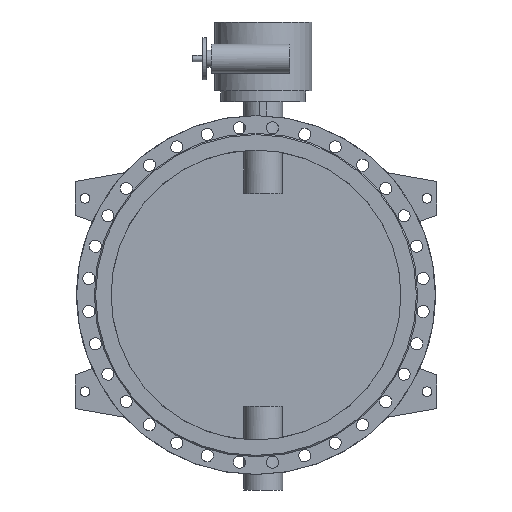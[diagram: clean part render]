
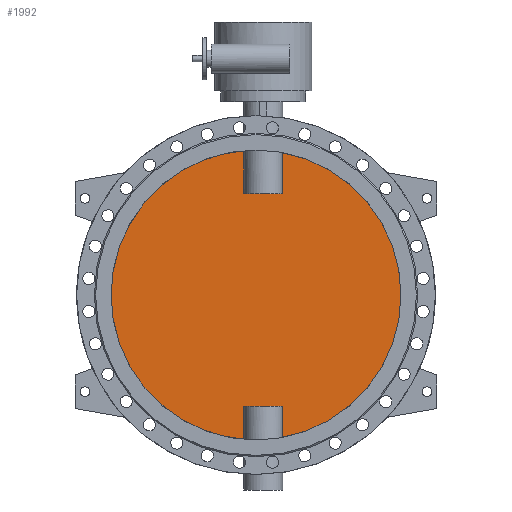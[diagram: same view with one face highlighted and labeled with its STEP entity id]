
A CAD part, front view. The second image highlights one B-rep face of the part: STEP entity #1992.
In plain terms, the highlighted planar face has unit normal (0, -1, 0).
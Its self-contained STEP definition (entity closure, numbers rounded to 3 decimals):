
#1992=ADVANCED_FACE('',(#4196),#4198,.F.);
#4196=FACE_BOUND('',#4197,.T.);
#4197=EDGE_LOOP('',(#5218,#5219,#5220,#5221,#5222,#5223,#5224,#5225));
#4198=PLANE('',#4199);
#4199=AXIS2_PLACEMENT_3D('',#4200,#4201,#4202);
#4200=CARTESIAN_POINT('',(0.,-5.,0.));
#4201=DIRECTION('',(0.,1.,0.));
#4202=DIRECTION('',(1.,0.,0.));
#5218=ORIENTED_EDGE('',*,*,#5729,.T.);
#5219=ORIENTED_EDGE('',*,*,#5735,.T.);
#5220=ORIENTED_EDGE('',*,*,#5736,.T.);
#5221=ORIENTED_EDGE('',*,*,#5737,.T.);
#5222=ORIENTED_EDGE('',*,*,#5731,.T.);
#5223=ORIENTED_EDGE('',*,*,#5738,.T.);
#5224=ORIENTED_EDGE('',*,*,#5739,.T.);
#5225=ORIENTED_EDGE('',*,*,#5740,.T.);
#5729=EDGE_CURVE('',#6585,#6586,#6587,.F.);
#5731=EDGE_CURVE('',#6590,#6588,#6591,.F.);
#5735=EDGE_CURVE('',#6586,#6597,#6598,.T.);
#5736=EDGE_CURVE('',#6597,#6599,#6600,.F.);
#5737=EDGE_CURVE('',#6599,#6590,#6601,.F.);
#5738=EDGE_CURVE('',#6588,#6602,#6603,.F.);
#5739=EDGE_CURVE('',#6602,#6604,#6605,.F.);
#5740=EDGE_CURVE('',#6604,#6585,#6606,.T.);
#6585=VERTEX_POINT('',#9600);
#6586=VERTEX_POINT('',#9601);
#6587=CIRCLE('',#9602,600.);
#6588=VERTEX_POINT('',#9606);
#6590=VERTEX_POINT('',#9700);
#6591=CIRCLE('',#9701,600.);
#6597=VERTEX_POINT('',#9809);
#6598=LINE('',#9810,#9811);
#6599=VERTEX_POINT('',#9813);
#6600=LINE('',#9814,#9815);
#6601=LINE('',#9817,#9818);
#6602=VERTEX_POINT('',#9820);
#6603=LINE('',#9821,#9822);
#6604=VERTEX_POINT('',#9824);
#6605=LINE('',#9825,#9826);
#6606=LINE('',#9828,#9829);
#9600=CARTESIAN_POINT('',(109.844,-5.,-589.86));
#9601=CARTESIAN_POINT('',(109.844,-5.,589.86));
#9602=AXIS2_PLACEMENT_3D('',#9603,#9604,#9605);
#9603=CARTESIAN_POINT('',(0.,-5.,0.));
#9604=DIRECTION('',(0.,1.,0.));
#9605=DIRECTION('',(0.183,0.,0.983));
#9606=CARTESIAN_POINT('',(-49.844,-5.,-597.926));
#9700=CARTESIAN_POINT('',(-49.844,-5.,597.926));
#9701=AXIS2_PLACEMENT_3D('',#9702,#9703,#9704);
#9702=CARTESIAN_POINT('',(0.,-5.,0.));
#9703=DIRECTION('',(0.,1.,0.));
#9704=DIRECTION('',(-0.083,0.,-0.997));
#9809=CARTESIAN_POINT('',(109.844,-5.,420.));
#9810=CARTESIAN_POINT('',(109.844,-5.,589.86));
#9811=VECTOR('',#9812,1.);
#9812=DIRECTION('',(0.,0.,-1.));
#9813=CARTESIAN_POINT('',(-49.844,-5.,420.));
#9814=CARTESIAN_POINT('',(-49.844,-5.,420.));
#9815=VECTOR('',#9816,1.);
#9816=DIRECTION('',(1.,0.,0.));
#9817=CARTESIAN_POINT('',(-49.844,-5.,597.926));
#9818=VECTOR('',#9819,1.);
#9819=DIRECTION('',(0.,0.,-1.));
#9820=CARTESIAN_POINT('',(-49.844,-5.,-460.));
#9821=CARTESIAN_POINT('',(-49.844,-5.,-460.));
#9822=VECTOR('',#9823,1.);
#9823=DIRECTION('',(0.,0.,-1.));
#9824=CARTESIAN_POINT('',(109.844,-5.,-460.));
#9825=CARTESIAN_POINT('',(109.844,-5.,-460.));
#9826=VECTOR('',#9827,1.);
#9827=DIRECTION('',(-1.,0.,0.));
#9828=CARTESIAN_POINT('',(109.844,-5.,-460.));
#9829=VECTOR('',#9830,1.);
#9830=DIRECTION('',(0.,0.,-1.));
